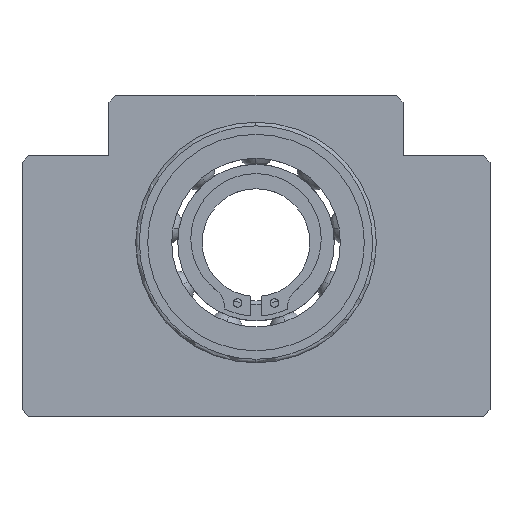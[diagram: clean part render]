
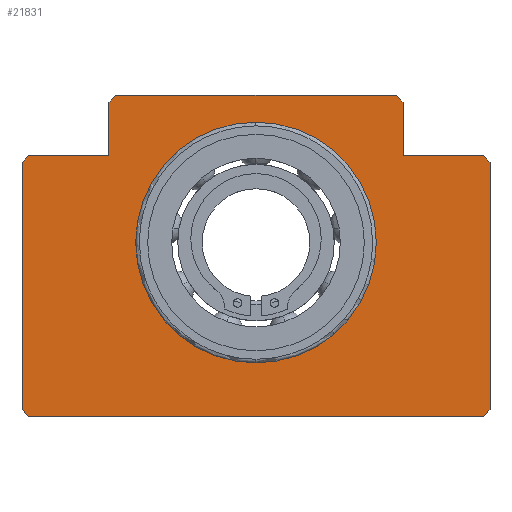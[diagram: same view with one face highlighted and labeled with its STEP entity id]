
A CAD part, top view. The second image highlights one B-rep face of the part: STEP entity #21831.
In plain terms, the highlighted planar face has unit normal (0, 0, 1).
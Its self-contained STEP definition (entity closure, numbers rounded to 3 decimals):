
#182 = DIRECTION ( 'NONE',  ( -0.707, 0.707, 0. ) ) ;
#200 = VERTEX_POINT ( 'NONE', #16709 ) ;
#240 = CARTESIAN_POINT ( 'NONE',  ( -61.042, 33.905, 16. ) ) ;
#442 = ORIENTED_EDGE ( 'NONE', *, *, #11719, .F. ) ;
#668 = CARTESIAN_POINT ( 'NONE',  ( -129.042, -18.095, 16. ) ) ;
#720 = DIRECTION ( 'NONE',  ( 0., 0., 1. ) ) ;
#794 = CARTESIAN_POINT ( 'NONE',  ( -103.042, 77.905, 16. ) ) ;
#997 = LINE ( 'NONE', #12220, #22083 ) ;
#1106 = CARTESIAN_POINT ( 'NONE',  ( -17.042, 59.905, 16. ) ) ;
#1191 = CARTESIAN_POINT ( 'NONE',  ( 8.958, 57.905, 16. ) ) ;
#1215 = ORIENTED_EDGE ( 'NONE', *, *, #5627, .F. ) ;
#1258 = LINE ( 'NONE', #6652, #5544 ) ;
#1462 = EDGE_CURVE ( 'NONE', #14618, #3002, #14883, .T. ) ;
#1656 = CARTESIAN_POINT ( 'NONE',  ( 6.958, -18.095, 16. ) ) ;
#1687 = DIRECTION ( 'NONE',  ( -0.707, -0.707, 0. ) ) ;
#2036 = ORIENTED_EDGE ( 'NONE', *, *, #10596, .F. ) ;
#2130 = VERTEX_POINT ( 'NONE', #15779 ) ;
#2134 = CIRCLE ( 'NONE', #5262, 36. ) ;
#2265 = LINE ( 'NONE', #668, #23673 ) ;
#2407 = DIRECTION ( 'NONE',  ( 1., 0., 0. ) ) ;
#2462 = CARTESIAN_POINT ( 'NONE',  ( -105.042, 59.905, 16. ) ) ;
#2490 = EDGE_LOOP ( 'NONE', ( #13894, #22241 ) ) ;
#2533 = LINE ( 'NONE', #14036, #20745 ) ;
#2724 = VECTOR ( 'NONE', #5326, 1000. ) ;
#2994 = DIRECTION ( 'NONE',  ( 0., 1., 0. ) ) ;
#3002 = VERTEX_POINT ( 'NONE', #23241 ) ;
#3181 = LINE ( 'NONE', #10688, #13549 ) ;
#3330 = EDGE_CURVE ( 'NONE', #8448, #19050, #997, .T. ) ;
#3429 = PLANE ( 'NONE',  #3738 ) ;
#3738 = AXIS2_PLACEMENT_3D ( 'NONE', #24405, #7486, #16777 ) ;
#4142 = EDGE_LOOP ( 'NONE', ( #23873, #442, #15225, #10748, #14111, #12776, #8454, #5248, #8654, #23217, #15801, #1215, #6534, #2036 ) ) ;
#4162 = EDGE_CURVE ( 'NONE', #16475, #24178, #2265, .T. ) ;
#4385 = VERTEX_POINT ( 'NONE', #1106 ) ;
#4686 = CARTESIAN_POINT ( 'NONE',  ( -61.042, 33.905, 16. ) ) ;
#4859 = EDGE_CURVE ( 'NONE', #2130, #9368, #1258, .T. ) ;
#4957 = CARTESIAN_POINT ( 'NONE',  ( -25.042, 33.905, 16. ) ) ;
#5248 = ORIENTED_EDGE ( 'NONE', *, *, #13112, .F. ) ;
#5262 = AXIS2_PLACEMENT_3D ( 'NONE', #4686, #9653, #6066 ) ;
#5296 = LINE ( 'NONE', #23941, #17560 ) ;
#5326 = DIRECTION ( 'NONE',  ( 0.707, -0.707, 0. ) ) ;
#5544 = VECTOR ( 'NONE', #12373, 1000. ) ;
#5627 = EDGE_CURVE ( 'NONE', #5696, #13041, #3181, .T. ) ;
#5645 = DIRECTION ( 'NONE',  ( 0., -1., 0. ) ) ;
#5696 = VERTEX_POINT ( 'NONE', #21573 ) ;
#6023 = CARTESIAN_POINT ( 'NONE',  ( -105.042, 59.905, 16. ) ) ;
#6066 = DIRECTION ( 'NONE',  ( -1., 0., 0. ) ) ;
#6406 = CARTESIAN_POINT ( 'NONE',  ( -131.042, 77.905, 16. ) ) ;
#6534 = ORIENTED_EDGE ( 'NONE', *, *, #13196, .F. ) ;
#6652 = CARTESIAN_POINT ( 'NONE',  ( 6.958, 59.905, 16. ) ) ;
#6974 = VERTEX_POINT ( 'NONE', #13522 ) ;
#6992 = EDGE_CURVE ( 'NONE', #200, #17410, #2134, .T. ) ;
#7097 = FACE_BOUND ( 'NONE', #2490, .T. ) ;
#7486 = DIRECTION ( 'NONE',  ( 0., 0., -1. ) ) ;
#7685 = CARTESIAN_POINT ( 'NONE',  ( -105.042, -18.095, 16. ) ) ;
#7729 = DIRECTION ( 'NONE',  ( -1., 0., 0. ) ) ;
#8448 = VERTEX_POINT ( 'NONE', #10721 ) ;
#8454 = ORIENTED_EDGE ( 'NONE', *, *, #4859, .F. ) ;
#8654 = ORIENTED_EDGE ( 'NONE', *, *, #13788, .F. ) ;
#9109 = VECTOR ( 'NONE', #5645, 1000. ) ;
#9272 = CARTESIAN_POINT ( 'NONE',  ( -129.042, 59.905, 16. ) ) ;
#9368 = VERTEX_POINT ( 'NONE', #1191 ) ;
#9653 = DIRECTION ( 'NONE',  ( 0., 0., 1. ) ) ;
#9853 = EDGE_CURVE ( 'NONE', #13041, #14618, #2533, .T. ) ;
#10153 = EDGE_CURVE ( 'NONE', #9368, #6974, #5296, .T. ) ;
#10596 = EDGE_CURVE ( 'NONE', #19050, #17636, #15577, .T. ) ;
#10688 = CARTESIAN_POINT ( 'NONE',  ( -105.042, 75.905, 16. ) ) ;
#10721 = CARTESIAN_POINT ( 'NONE',  ( -131.042, 57.905, 16. ) ) ;
#10748 = ORIENTED_EDGE ( 'NONE', *, *, #12872, .F. ) ;
#10768 = CARTESIAN_POINT ( 'NONE',  ( -19.042, 77.905, 16. ) ) ;
#11025 = DIRECTION ( 'NONE',  ( -1., 0., 0. ) ) ;
#11536 = VECTOR ( 'NONE', #23726, 1000. ) ;
#11700 = VECTOR ( 'NONE', #2994, 1000. ) ;
#11719 = EDGE_CURVE ( 'NONE', #24178, #8448, #18041, .T. ) ;
#12042 = VERTEX_POINT ( 'NONE', #1656 ) ;
#12220 = CARTESIAN_POINT ( 'NONE',  ( -131.042, 57.905, 16. ) ) ;
#12261 = LINE ( 'NONE', #23497, #11536 ) ;
#12321 = VECTOR ( 'NONE', #11025, 1000. ) ;
#12373 = DIRECTION ( 'NONE',  ( 0.707, -0.707, 0. ) ) ;
#12776 = ORIENTED_EDGE ( 'NONE', *, *, #10153, .F. ) ;
#12872 = EDGE_CURVE ( 'NONE', #12042, #16475, #20442, .T. ) ;
#13041 = VERTEX_POINT ( 'NONE', #794 ) ;
#13112 = EDGE_CURVE ( 'NONE', #4385, #2130, #21307, .T. ) ;
#13196 = EDGE_CURVE ( 'NONE', #17636, #5696, #12261, .T. ) ;
#13219 = CARTESIAN_POINT ( 'NONE',  ( -17.042, 77.905, 16. ) ) ;
#13265 = CARTESIAN_POINT ( 'NONE',  ( -19.042, 77.905, 16. ) ) ;
#13522 = CARTESIAN_POINT ( 'NONE',  ( 8.958, -16.095, 16. ) ) ;
#13549 = VECTOR ( 'NONE', #14557, 1000. ) ;
#13788 = EDGE_CURVE ( 'NONE', #3002, #4385, #22605, .T. ) ;
#13894 = ORIENTED_EDGE ( 'NONE', *, *, #6992, .F. ) ;
#13968 = VECTOR ( 'NONE', #1687, 1000. ) ;
#14026 = CARTESIAN_POINT ( 'NONE',  ( -105.042, 59.905, 16. ) ) ;
#14036 = CARTESIAN_POINT ( 'NONE',  ( -103.042, 77.905, 16. ) ) ;
#14111 = ORIENTED_EDGE ( 'NONE', *, *, #20319, .F. ) ;
#14557 = DIRECTION ( 'NONE',  ( 0.707, 0.707, 0. ) ) ;
#14618 = VERTEX_POINT ( 'NONE', #10768 ) ;
#14883 = LINE ( 'NONE', #13265, #2724 ) ;
#15225 = ORIENTED_EDGE ( 'NONE', *, *, #4162, .F. ) ;
#15577 = LINE ( 'NONE', #6023, #17197 ) ;
#15779 = CARTESIAN_POINT ( 'NONE',  ( 6.958, 59.905, 16. ) ) ;
#15801 = ORIENTED_EDGE ( 'NONE', *, *, #9853, .F. ) ;
#16270 = VECTOR ( 'NONE', #21544, 1000. ) ;
#16475 = VERTEX_POINT ( 'NONE', #21124 ) ;
#16709 = CARTESIAN_POINT ( 'NONE',  ( -97.042, 33.905, 16. ) ) ;
#16777 = DIRECTION ( 'NONE',  ( 0., -1., 0. ) ) ;
#17197 = VECTOR ( 'NONE', #21382, 1000. ) ;
#17410 = VERTEX_POINT ( 'NONE', #4957 ) ;
#17560 = VECTOR ( 'NONE', #22123, 1000. ) ;
#17636 = VERTEX_POINT ( 'NONE', #2462 ) ;
#18041 = LINE ( 'NONE', #6406, #11700 ) ;
#19050 = VERTEX_POINT ( 'NONE', #9272 ) ;
#20005 = DIRECTION ( 'NONE',  ( 0.707, 0.707, 0. ) ) ;
#20319 = EDGE_CURVE ( 'NONE', #6974, #12042, #22563, .T. ) ;
#20362 = FACE_OUTER_BOUND ( 'NONE', #4142, .T. ) ;
#20442 = LINE ( 'NONE', #7685, #12321 ) ;
#20745 = VECTOR ( 'NONE', #2407, 1000. ) ;
#21124 = CARTESIAN_POINT ( 'NONE',  ( -129.042, -18.095, 16. ) ) ;
#21307 = LINE ( 'NONE', #14026, #16270 ) ;
#21382 = DIRECTION ( 'NONE',  ( 1., 0., 0. ) ) ;
#21544 = DIRECTION ( 'NONE',  ( 1., 0., 0. ) ) ;
#21557 = CARTESIAN_POINT ( 'NONE',  ( -131.042, -16.095, 16. ) ) ;
#21573 = CARTESIAN_POINT ( 'NONE',  ( -105.042, 75.905, 16. ) ) ;
#21831 = ADVANCED_FACE ( 'NONE', ( #7097, #20362 ), #3429, .F. ) ;
#21884 = EDGE_CURVE ( 'NONE', #17410, #200, #22286, .T. ) ;
#22083 = VECTOR ( 'NONE', #20005, 1000. ) ;
#22123 = DIRECTION ( 'NONE',  ( 0., -1., 0. ) ) ;
#22241 = ORIENTED_EDGE ( 'NONE', *, *, #21884, .F. ) ;
#22286 = CIRCLE ( 'NONE', #22667, 36. ) ;
#22563 = LINE ( 'NONE', #24131, #13968 ) ;
#22605 = LINE ( 'NONE', #13219, #9109 ) ;
#22667 = AXIS2_PLACEMENT_3D ( 'NONE', #240, #720, #7729 ) ;
#23217 = ORIENTED_EDGE ( 'NONE', *, *, #1462, .F. ) ;
#23241 = CARTESIAN_POINT ( 'NONE',  ( -17.042, 75.905, 16. ) ) ;
#23497 = CARTESIAN_POINT ( 'NONE',  ( -105.042, 77.905, 16. ) ) ;
#23673 = VECTOR ( 'NONE', #182, 1000. ) ;
#23726 = DIRECTION ( 'NONE',  ( 0., 1., 0. ) ) ;
#23873 = ORIENTED_EDGE ( 'NONE', *, *, #3330, .F. ) ;
#23941 = CARTESIAN_POINT ( 'NONE',  ( 8.958, 77.905, 16. ) ) ;
#24131 = CARTESIAN_POINT ( 'NONE',  ( 8.958, -16.095, 16. ) ) ;
#24178 = VERTEX_POINT ( 'NONE', #21557 ) ;
#24405 = CARTESIAN_POINT ( 'NONE',  ( -105.042, 77.905, 16. ) ) ;
